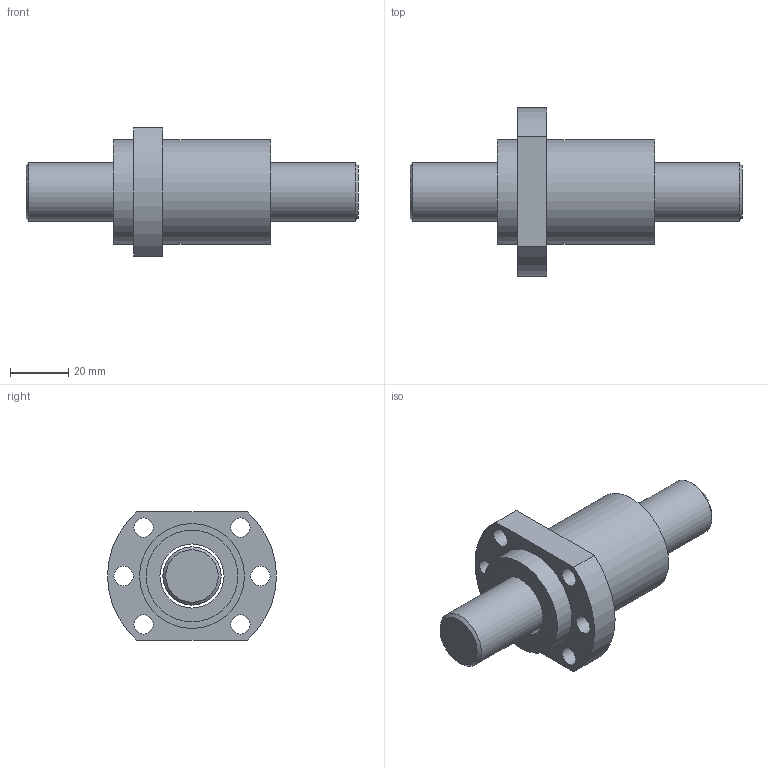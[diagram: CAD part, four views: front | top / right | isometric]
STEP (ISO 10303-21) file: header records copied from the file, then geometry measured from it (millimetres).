
FILE_DESCRIPTION(/* description */ (''),/* implementation_level */ '2;1');
FILE_NAME(/* name */ 'SFH2020-1.8.stp',/* time_stamp */ '2014-10-15T13:10:06+08:00',/* author */ (''),/* organization */ (''),/* preprocessor_version */ 'ST-DEVELOPER v11',/* originating_system */ 'SIEMENS UGS NX 6.0',/* authorisation */ '');
FILE_SCHEMA (('CONFIG_CONTROL_DESIGN'));
Length unit declared in the file: millimetre
Products named in the file (1): fannB1F9gmd9
Bounding box: 114 x 58 x 44 mm (x, y, z)
Volume: 80758.9 mm3; surface area: 27711.3 mm2
Topology: 4 solids, 4 shells, 50 faces, 90 edges, 60 vertices
Faces by surface type: cylinder 26, plane 22, cone 2
Full cylindrical faces by diameter (mm): 6.6 x6, 20 x1, 22 x3, 28 x4, 31.5 x4, 33 x4, 36 x2
Entity records: 1216 total; most frequent: DIRECTION 218, CARTESIAN_POINT 171, ORIENTED_EDGE 124, EDGE_LOOP 106, AXIS2_PLACEMENT_3D 105, FACE_BOUND 100, EDGE_CURVE 62, VERTEX_POINT 58
